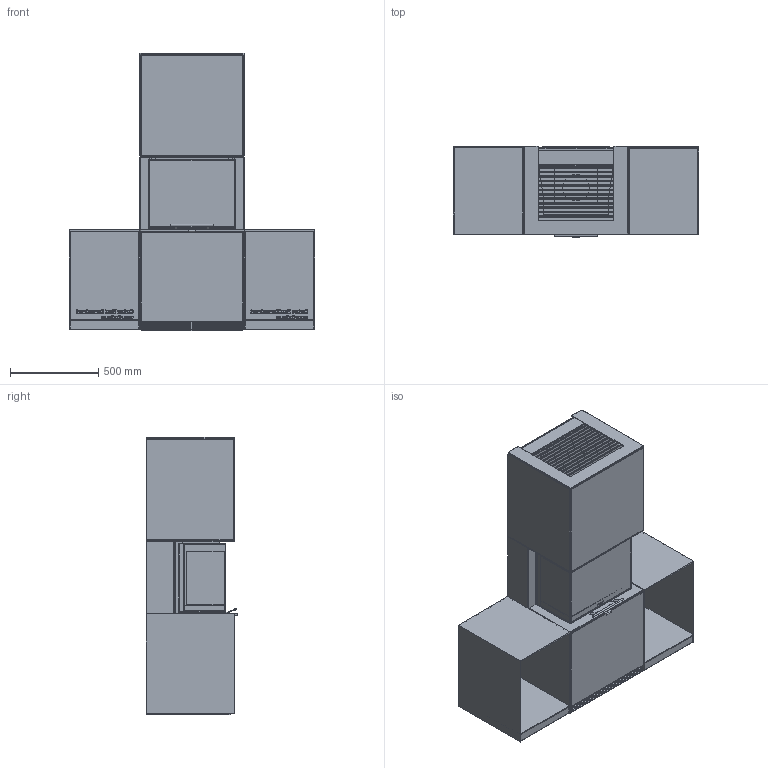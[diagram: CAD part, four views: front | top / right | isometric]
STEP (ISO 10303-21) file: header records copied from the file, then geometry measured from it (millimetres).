
FILE_DESCRIPTION(/* description */ ('Unknown'),/* implementation_level */ '2;1');
FILE_NAME(/* name */ 'Ci61',/* time_stamp */ '2019-08-23T10:44:38+02:00',/* author */ ('Unknown'),/* organization */ ('NIBE AB/Contura'),/* preprocessor_version */ 'ST-DEVELOPER v16.7',/* originating_system */ 'DEX',/* authorisation */ $);
FILE_SCHEMA (('AUTOMOTIVE_DESIGN {1 0 10303 214 3 1 1}'));
Products named in the file (14): DSN1030895; DSN1030896; Side glas Ci50; DSN1030882; DSN1030964; DSN1030884; DSN1030883; DSN1015885; DSN1030894; DSN1030893; DSN1030892; DSN1030891; DSN1030890; DSN1030935
Assembly tree (15 placements, depth 3):
  DSN1030895
    DSN1030896
      Side glas Ci50  x2
      DSN1030882
      DSN1030964
      DSN1030884
      DSN1030883
      DSN1015885
    DSN1030894
    DSN1030893
    DSN1030892
    DSN1030891
    DSN1030890  x2
    DSN1030935
Bounding box: 1390 x 518 x 1570.1 mm (x, y, z)
Volume: 256145768.4 mm3; surface area: 19147581.6 mm2
Topology: 28 solids, 28 shells, 2555 faces, 6560 edges, 4333 vertices
Faces by surface type: plane 1929, bspline 363, cylinder 215, torus 24, sphere 24
Full cylindrical faces by diameter (mm): 10 x5, 13 x4, 30 x12, 100 x2, 140 x2, 150 x1, 158 x2
Entity records: 86754 total; most frequent: CARTESIAN_POINT 31711, ORIENTED_EDGE 10408, DIRECTION 7213, EDGE_CURVE 5204, VERTEX_POINT 3460, LINE 2759, VECTOR 2759, EDGE_LOOP 2302
